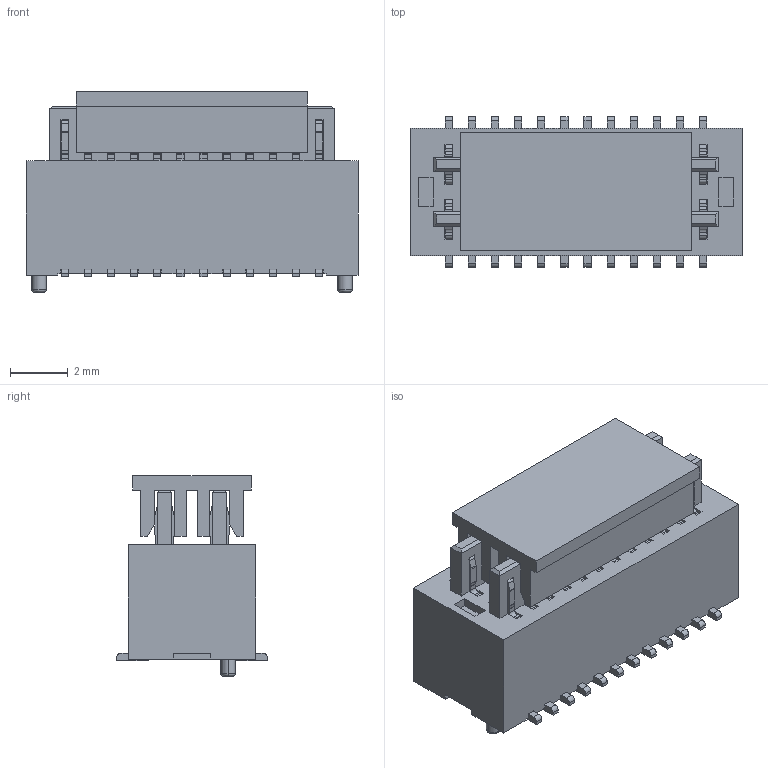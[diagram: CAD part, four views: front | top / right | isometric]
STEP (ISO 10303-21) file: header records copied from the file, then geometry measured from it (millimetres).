
FILE_DESCRIPTION (( 'STEP AP203' ), '1' );
FILE_NAME ('HC-PBB08-2-24-M-H4.0-G1-R-P-04(BTB0.8 双槽 公座 立贴 带柱 编带+盖)-HCTL.STEP', '2025-12-11T06:09:55', ( '' ), ( '' ), 'SwSTEP 2.0', 'SolidWorks 2025', '' );
FILE_SCHEMA (( 'CONFIG_CONTROL_DESIGN' ));
Length unit declared in the file: millimetre
Products named in the file (1): HC-PBB08-2-24-M-H4.0-G1-R-P-04(BTB0.8 双槽 公座 立贴 带柱 编带+盖)-HCTL
Bounding box: 11.49 x 5.2 x 6.95 mm (x, y, z)
Volume: 252.1 mm3; surface area: 1111.8 mm2
Topology: 2 solids, 2 shells, 1448 faces, 4614 edges, 3008 vertices
Faces by surface type: plane 960, cylinder 484, torus 4
Entity records: 51117 total; most frequent: CARTESIAN_POINT 9359, ORIENTED_EDGE 9228, DIRECTION 8392, EDGE_CURVE 4614, VECTOR 3542, LINE 3542, VERTEX_POINT 3008, AXIS2_PLACEMENT_3D 2425
